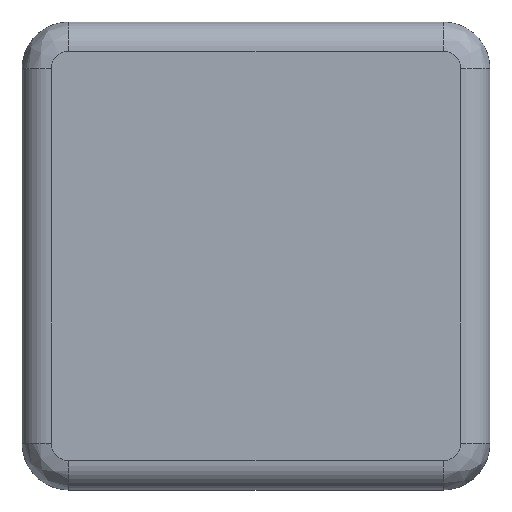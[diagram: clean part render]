
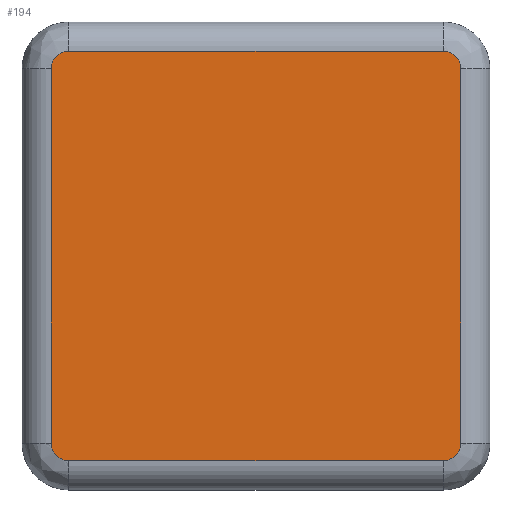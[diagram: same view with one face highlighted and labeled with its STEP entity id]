
A CAD part, top view. The second image highlights one B-rep face of the part: STEP entity #194.
In plain terms, the highlighted planar face has unit normal (0, 0, 1).
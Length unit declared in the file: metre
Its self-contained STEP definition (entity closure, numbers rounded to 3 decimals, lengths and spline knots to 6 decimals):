
#92 = EDGE_CURVE( '', #231, #232, #233, .T. );
#96 = EDGE_CURVE( '', #239, #240, #241, .T. );
#102 = EDGE_CURVE( '', #232, #249, #250, .T. );
#130 = EDGE_CURVE( '', #275, #291, #292, .T. );
#140 = EDGE_CURVE( '', #240, #275, #304, .T. );
#144 = EDGE_CURVE( '', #249, #308, #309, .T. );
#154 = EDGE_CURVE( '', #291, #231, #320, .T. );
#180 = EDGE_CURVE( '', #308, #239, #349, .T. );
#194 = ADVANCED_FACE( '', ( #371 ), #372, .T. );
#231 = VERTEX_POINT( '', #428 );
#232 = VERTEX_POINT( '', #429 );
#233 = CIRCLE( '', #430, 0.0015 );
#239 = VERTEX_POINT( '', #438 );
#240 = VERTEX_POINT( '', #439 );
#241 = CIRCLE( '', #440, 0.0015 );
#249 = VERTEX_POINT( '', #449 );
#250 = LINE( '', #450, #451 );
#275 = VERTEX_POINT( '', #508 );
#291 = VERTEX_POINT( '', #529 );
#292 = CIRCLE( '', #530, 0.0015 );
#304 = LINE( '', #547, #548 );
#308 = VERTEX_POINT( '', #555 );
#309 = CIRCLE( '', #556, 0.0015 );
#320 = LINE( '', #571, #572 );
#349 = LINE( '', #617, #618 );
#371 = FACE_OUTER_BOUND( '', #666, .T. );
#372 = PLANE( '', #667 );
#428 = CARTESIAN_POINT( '', ( 0.0025, 0.036, 0.004 ) );
#429 = CARTESIAN_POINT( '', ( 0.004, 0.0375, 0.004 ) );
#430 = AXIS2_PLACEMENT_3D( '', #724, #725, #726 );
#438 = CARTESIAN_POINT( '', ( 0.0375, 0.004, 0.004 ) );
#439 = CARTESIAN_POINT( '', ( 0.036, 0.0025, 0.004 ) );
#440 = AXIS2_PLACEMENT_3D( '', #730, #731, #732 );
#449 = CARTESIAN_POINT( '', ( 0.036, 0.0375, 0.004 ) );
#450 = CARTESIAN_POINT( '', ( 0.004, 0.0375, 0.004 ) );
#451 = VECTOR( '', #749, 1. );
#508 = CARTESIAN_POINT( '', ( 0.004, 0.0025, 0.004 ) );
#529 = CARTESIAN_POINT( '', ( 0.0025, 0.004, 0.004 ) );
#530 = AXIS2_PLACEMENT_3D( '', #793, #794, #795 );
#547 = CARTESIAN_POINT( '', ( 0.036, 0.0025, 0.004 ) );
#548 = VECTOR( '', #811, 1. );
#555 = CARTESIAN_POINT( '', ( 0.0375, 0.036, 0.004 ) );
#556 = AXIS2_PLACEMENT_3D( '', #813, #814, #815 );
#571 = CARTESIAN_POINT( '', ( 0.0025, 0.004, 0.004 ) );
#572 = VECTOR( '', #833, 1. );
#617 = CARTESIAN_POINT( '', ( 0.0375, 0.036, 0.004 ) );
#618 = VECTOR( '', #873, 1. );
#666 = EDGE_LOOP( '', ( #914, #915, #916, #917, #918, #919, #920, #921 ) );
#667 = AXIS2_PLACEMENT_3D( '', #922, #923, #924 );
#724 = CARTESIAN_POINT( '', ( 0.004, 0.036, 0.004 ) );
#725 = DIRECTION( '', ( 0., 0., -1. ) );
#726 = DIRECTION( '', ( 1., 0., 0. ) );
#730 = CARTESIAN_POINT( '', ( 0.036, 0.004, 0.004 ) );
#731 = DIRECTION( '', ( 0., 0., -1. ) );
#732 = DIRECTION( '', ( 1., 0., 0. ) );
#749 = DIRECTION( '', ( 1., 0., 0. ) );
#793 = CARTESIAN_POINT( '', ( 0.004, 0.004, 0.004 ) );
#794 = DIRECTION( '', ( 0., 0., -1. ) );
#795 = DIRECTION( '', ( 1., 0., 0. ) );
#811 = DIRECTION( '', ( -1., 0., 0. ) );
#813 = CARTESIAN_POINT( '', ( 0.036, 0.036, 0.004 ) );
#814 = DIRECTION( '', ( 0., 0., -1. ) );
#815 = DIRECTION( '', ( 1., 0., 0. ) );
#833 = DIRECTION( '', ( 0., 1., 0. ) );
#873 = DIRECTION( '', ( 0., -1., 0. ) );
#914 = ORIENTED_EDGE( '', *, *, #180, .F. );
#915 = ORIENTED_EDGE( '', *, *, #144, .F. );
#916 = ORIENTED_EDGE( '', *, *, #102, .F. );
#917 = ORIENTED_EDGE( '', *, *, #92, .F. );
#918 = ORIENTED_EDGE( '', *, *, #154, .F. );
#919 = ORIENTED_EDGE( '', *, *, #130, .F. );
#920 = ORIENTED_EDGE( '', *, *, #140, .F. );
#921 = ORIENTED_EDGE( '', *, *, #96, .F. );
#922 = CARTESIAN_POINT( '', ( 0.03675, 0.036, 0.004 ) );
#923 = DIRECTION( '', ( 0., 0., 1. ) );
#924 = DIRECTION( '', ( 1., 0., 0. ) );
